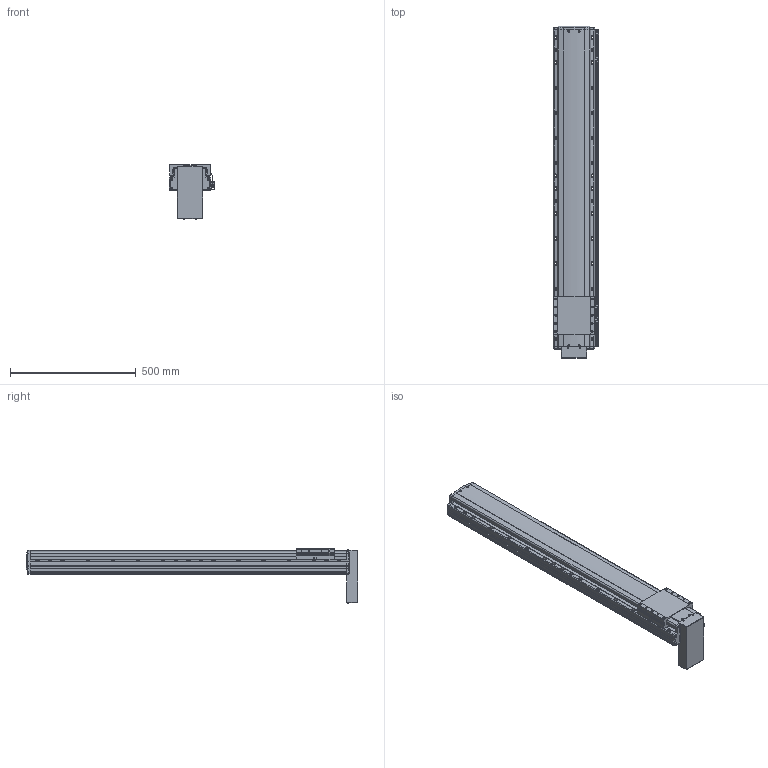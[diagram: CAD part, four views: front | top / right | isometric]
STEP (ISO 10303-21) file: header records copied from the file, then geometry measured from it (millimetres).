
FILE_DESCRIPTION(('STEP AP214'),'1');
FILE_NAME('Z:/Web/3D/PSA165/STP/PSA165-1000 (3D)/PSA165ㅁㅁ-1000PB+3SR.stp','2014-06-24T10:30:45',(' '),(' '),'Spatial InterOp 3D',' ',' ');
FILE_SCHEMA(('automotive_design'));
Length unit declared in the file: millimetre
Products named in the file (47): 스크루 : Round - M4.0 x 12.0; RRCV-PA160; BASE; 스크루 : Round - M4.0 x 10.0; RN15; Screw 20; SLIDE; FRCV; MTPL CV- PB; 스크루 : Round - M3.0 x 6.0; 1; 2; M3.0 x 6.0; SRL-16x17-360L; SGD-SAN150; EE-SX674; SBK-SX674-352; BHCS M4.0 x 10.0
Bounding box: 181 x 1320.8 x 215.96 mm (x, y, z)
Volume: 18603481.8 mm3; surface area: 1304235 mm2
Topology: 47 solids, 47 shells, 2764 faces, 7372 edges, 4724 vertices
Faces by surface type: plane 1549, cylinder 848, cone 254, sphere 72, bspline 25, torus 16
Entity records: 111831 total; most frequent: CARTESIAN_POINT 19225, DIRECTION 14775, ORIENTED_EDGE 14420, EDGE_CURVE 7210, AXIS2_PLACEMENT_3D 5014, LINE 4747, VECTOR 4747, VERTEX_POINT 4724
